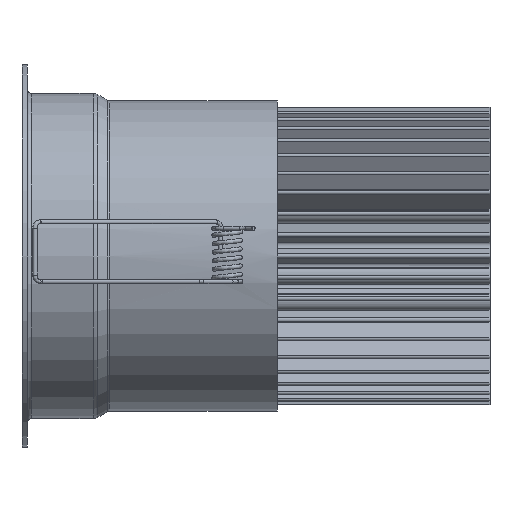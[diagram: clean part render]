
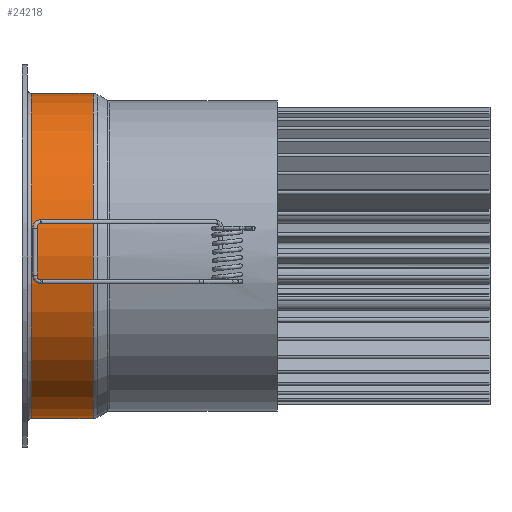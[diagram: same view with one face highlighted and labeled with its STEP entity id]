
A CAD part, left-side view. The second image highlights one B-rep face of the part: STEP entity #24218.
In plain terms, the highlighted cylindrical face has radius 38.2 mm (diameter 76.4 mm), a full revolution.
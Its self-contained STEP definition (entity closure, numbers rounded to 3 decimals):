
#435=CYLINDRICAL_SURFACE('',#26073,38.2);
#1097=CIRCLE('',#26071,38.2);
#1098=CIRCLE('',#26072,38.2);
#1099=CIRCLE('',#26074,38.2);
#1100=CIRCLE('',#26075,38.2);
#2242=FACE_OUTER_BOUND('',#3738,.T.);
#3738=EDGE_LOOP('',(#19665,#19666,#19667,#19668,#19669,#19670));
#6177=LINE('',#49629,#8820);
#8820=VECTOR('',#31370,38.2);
#11214=VERTEX_POINT('',#49619);
#11215=VERTEX_POINT('',#49621);
#11216=VERTEX_POINT('',#49625);
#11217=VERTEX_POINT('',#49626);
#14220=EDGE_CURVE('',#11215,#11214,#1097,.T.);
#14221=EDGE_CURVE('',#11214,#11215,#1098,.T.);
#14222=EDGE_CURVE('',#11216,#11217,#1099,.T.);
#14223=EDGE_CURVE('',#11217,#11216,#1100,.T.);
#14224=EDGE_CURVE('',#11217,#11215,#6177,.T.);
#19665=ORIENTED_EDGE('',*,*,#14222,.F.);
#19666=ORIENTED_EDGE('',*,*,#14223,.F.);
#19667=ORIENTED_EDGE('',*,*,#14224,.T.);
#19668=ORIENTED_EDGE('',*,*,#14220,.T.);
#19669=ORIENTED_EDGE('',*,*,#14221,.T.);
#19670=ORIENTED_EDGE('',*,*,#14224,.F.);
#24218=ADVANCED_FACE('',(#2242),#435,.T.);
#26071=AXIS2_PLACEMENT_3D('',#49622,#31360,#31361);
#26072=AXIS2_PLACEMENT_3D('',#49623,#31362,#31363);
#26073=AXIS2_PLACEMENT_3D('',#49624,#31364,#31365);
#26074=AXIS2_PLACEMENT_3D('',#49627,#31366,#31367);
#26075=AXIS2_PLACEMENT_3D('',#49628,#31368,#31369);
#31360=DIRECTION('center_axis',(0.,-1.,0.));
#31361=DIRECTION('ref_axis',(1.,0.,0.));
#31362=DIRECTION('center_axis',(0.,-1.,0.));
#31363=DIRECTION('ref_axis',(1.,0.,0.));
#31364=DIRECTION('center_axis',(0.,-1.,0.));
#31365=DIRECTION('ref_axis',(-1.,0.,0.));
#31366=DIRECTION('center_axis',(0.,-1.,0.));
#31367=DIRECTION('ref_axis',(1.,0.,0.));
#31368=DIRECTION('center_axis',(0.,-1.,0.));
#31369=DIRECTION('ref_axis',(1.,0.,0.));
#31370=DIRECTION('',(0.,1.,0.));
#49619=CARTESIAN_POINT('',(0.,-2.2,38.2));
#49621=CARTESIAN_POINT('',(38.2,-2.2,0.));
#49622=CARTESIAN_POINT('Origin',(0.,-2.2,0.));
#49623=CARTESIAN_POINT('Origin',(0.,-2.2,0.));
#49624=CARTESIAN_POINT('Origin',(0.,-9.465,0.));
#49625=CARTESIAN_POINT('',(0.,-16.73,38.2));
#49626=CARTESIAN_POINT('',(38.2,-16.73,0.));
#49627=CARTESIAN_POINT('Origin',(0.,-16.73,0.));
#49628=CARTESIAN_POINT('Origin',(0.,-16.73,0.));
#49629=CARTESIAN_POINT('',(38.2,-9.465,0.));
